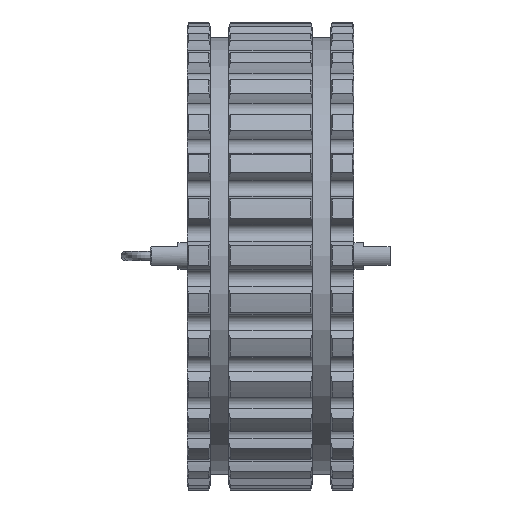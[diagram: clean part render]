
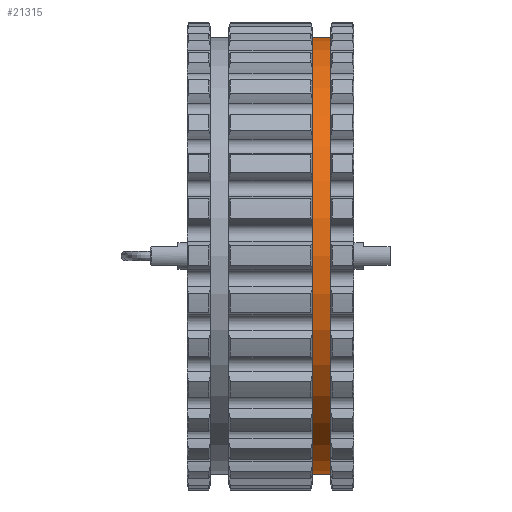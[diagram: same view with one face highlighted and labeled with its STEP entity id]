
A CAD part, top view. The second image highlights one B-rep face of the part: STEP entity #21315.
In plain terms, the highlighted cylindrical face has radius 118 mm (diameter 236 mm), a full revolution.
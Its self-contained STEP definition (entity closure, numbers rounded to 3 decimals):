
#19389=CARTESIAN_POINT('',(0.0,118.,32.5));
#19390=VERTEX_POINT('',#19389);
#19391=CARTESIAN_POINT('',(0.0,0.0,32.5));
#19392=DIRECTION('',(0.0,0.0,1.0));
#19393=DIRECTION('',(0.0,1.0,0.0));
#19394=AXIS2_PLACEMENT_3D('',#19391,#19392,#19393);
#19395=CIRCLE('',#19394,118.);
#19396=EDGE_CURVE('',#19390,#19390,#19395,.T.);
#21232=CARTESIAN_POINT('',(0.0,118.,22.5));
#21233=VERTEX_POINT('',#21232);
#21234=CARTESIAN_POINT('',(0.0,0.0,22.5));
#21235=DIRECTION('',(0.0,0.0,1.0));
#21236=DIRECTION('',(0.0,1.0,0.0));
#21237=AXIS2_PLACEMENT_3D('',#21234,#21235,#21236);
#21238=CIRCLE('',#21237,118.);
#21239=EDGE_CURVE('',#21233,#21233,#21238,.T.);
#21304=CARTESIAN_POINT('',(0.0,0.0,27.5));
#21305=DIRECTION('',(0.0,0.0,1.0));
#21306=DIRECTION('',(0.0,1.0,0.0));
#21307=AXIS2_PLACEMENT_3D('',#21304,#21305,#21306);
#21308=CYLINDRICAL_SURFACE('',#21307,118.);
#21309=ORIENTED_EDGE('',*,*,#21239,.T.);
#21310=EDGE_LOOP('',(#21309));
#21311=FACE_OUTER_BOUND('',#21310,.T.);
#21312=ORIENTED_EDGE('',*,*,#19396,.F.);
#21313=EDGE_LOOP('',(#21312));
#21314=FACE_BOUND('',#21313,.T.);
#21315=ADVANCED_FACE('',(#21311,#21314),#21308,.T.);
